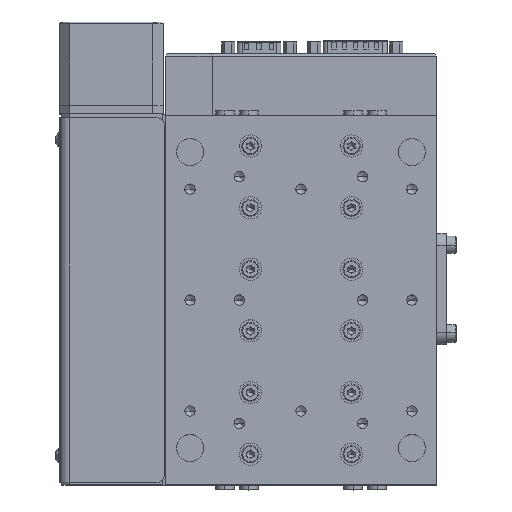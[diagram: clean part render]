
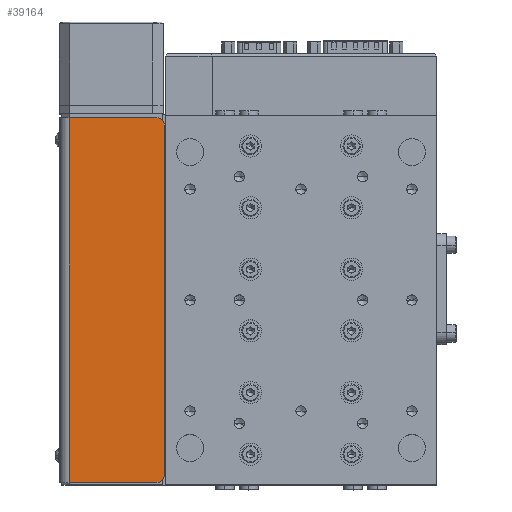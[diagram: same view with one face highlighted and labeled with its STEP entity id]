
A CAD part, top view. The second image highlights one B-rep face of the part: STEP entity #39164.
In plain terms, the highlighted planar face has unit normal (0, 0, 1).
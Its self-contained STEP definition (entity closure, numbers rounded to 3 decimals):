
#3399 = DIRECTION ( 'NONE',  ( 0., 1., 0. ) ) ;
#3688 = CIRCLE ( 'NONE', #46885, 3. ) ;
#3783 = EDGE_CURVE ( 'NONE', #47870, #18642, #53238, .T. ) ;
#5144 = VECTOR ( 'NONE', #49447, 1000. ) ;
#7139 = ORIENTED_EDGE ( 'NONE', *, *, #25822, .T. ) ;
#9590 = DIRECTION ( 'NONE',  ( -1., 0., 0. ) ) ;
#10596 = ORIENTED_EDGE ( 'NONE', *, *, #12885, .F. ) ;
#10689 = CARTESIAN_POINT ( 'NONE',  ( -94., -74., 41.1 ) ) ;
#11404 = VERTEX_POINT ( 'NONE', #19171 ) ;
#11938 = VERTEX_POINT ( 'NONE', #56687 ) ;
#12552 = DIRECTION ( 'NONE',  ( 0., 0., 1. ) ) ;
#12656 = ORIENTED_EDGE ( 'NONE', *, *, #3783, .T. ) ;
#12885 = EDGE_CURVE ( 'NONE', #11404, #11938, #28422, .T. ) ;
#13045 = AXIS2_PLACEMENT_3D ( 'NONE', #48238, #39790, #9590 ) ;
#18085 = CARTESIAN_POINT ( 'NONE',  ( -94., 74., 41.1 ) ) ;
#18239 = CIRCLE ( 'NONE', #42121, 3. ) ;
#18642 = VERTEX_POINT ( 'NONE', #32860 ) ;
#19171 = CARTESIAN_POINT ( 'NONE',  ( -58.5, -74., 41.1 ) ) ;
#19510 = DIRECTION ( 'NONE',  ( -1., 0., 0. ) ) ;
#20087 = CARTESIAN_POINT ( 'NONE',  ( -58.5, 71., 41.1 ) ) ;
#21222 = EDGE_CURVE ( 'NONE', #27246, #22803, #49707, .T. ) ;
#21724 = VECTOR ( 'NONE', #3399, 1000. ) ;
#22803 = VERTEX_POINT ( 'NONE', #31469 ) ;
#23014 = DIRECTION ( 'NONE',  ( 1., 0., 0. ) ) ;
#23322 = ORIENTED_EDGE ( 'NONE', *, *, #21222, .F. ) ;
#25329 = DIRECTION ( 'NONE',  ( -1., 0., 0. ) ) ;
#25822 = EDGE_CURVE ( 'NONE', #11404, #47870, #3688, .T. ) ;
#26424 = PLANE ( 'NONE',  #13045 ) ;
#27246 = VERTEX_POINT ( 'NONE', #18085 ) ;
#28297 = DIRECTION ( 'NONE',  ( 0., 0., 1. ) ) ;
#28406 = LINE ( 'NONE', #36199, #5144 ) ;
#28422 = LINE ( 'NONE', #10689, #47621 ) ;
#29708 = CARTESIAN_POINT ( 'NONE',  ( -58.5, -71., 41.1 ) ) ;
#31469 = CARTESIAN_POINT ( 'NONE',  ( -58.5, 74., 41.1 ) ) ;
#32860 = CARTESIAN_POINT ( 'NONE',  ( -55.5, 71., 41.1 ) ) ;
#34858 = EDGE_CURVE ( 'NONE', #11938, #27246, #28406, .T. ) ;
#35870 = EDGE_LOOP ( 'NONE', ( #10596, #7139, #12656, #45784, #23322, #39063 ) ) ;
#36199 = CARTESIAN_POINT ( 'NONE',  ( -94., -133.391, 41.1 ) ) ;
#39063 = ORIENTED_EDGE ( 'NONE', *, *, #34858, .F. ) ;
#39164 = ADVANCED_FACE ( 'NONE', ( #48643 ), #26424, .F. ) ;
#39790 = DIRECTION ( 'NONE',  ( 0., 0., -1. ) ) ;
#40055 = CARTESIAN_POINT ( 'NONE',  ( -94., 74., 41.1 ) ) ;
#41344 = EDGE_CURVE ( 'NONE', #18642, #22803, #18239, .T. ) ;
#41414 = CARTESIAN_POINT ( 'NONE',  ( -55.5, -71., 41.1 ) ) ;
#42121 = AXIS2_PLACEMENT_3D ( 'NONE', #20087, #28297, #19510 ) ;
#42173 = VECTOR ( 'NONE', #23014, 1000. ) ;
#42680 = CARTESIAN_POINT ( 'NONE',  ( -55.5, -133.391, 41.1 ) ) ;
#45692 = DIRECTION ( 'NONE',  ( -1., 0., 0. ) ) ;
#45784 = ORIENTED_EDGE ( 'NONE', *, *, #41344, .T. ) ;
#46885 = AXIS2_PLACEMENT_3D ( 'NONE', #29708, #12552, #25329 ) ;
#47621 = VECTOR ( 'NONE', #45692, 1000. ) ;
#47870 = VERTEX_POINT ( 'NONE', #41414 ) ;
#48238 = CARTESIAN_POINT ( 'NONE',  ( -94., -133.391, 41.1 ) ) ;
#48643 = FACE_OUTER_BOUND ( 'NONE', #35870, .T. ) ;
#49447 = DIRECTION ( 'NONE',  ( 0., 1., 0. ) ) ;
#49707 = LINE ( 'NONE', #40055, #42173 ) ;
#53238 = LINE ( 'NONE', #42680, #21724 ) ;
#56687 = CARTESIAN_POINT ( 'NONE',  ( -94., -74., 41.1 ) ) ;
